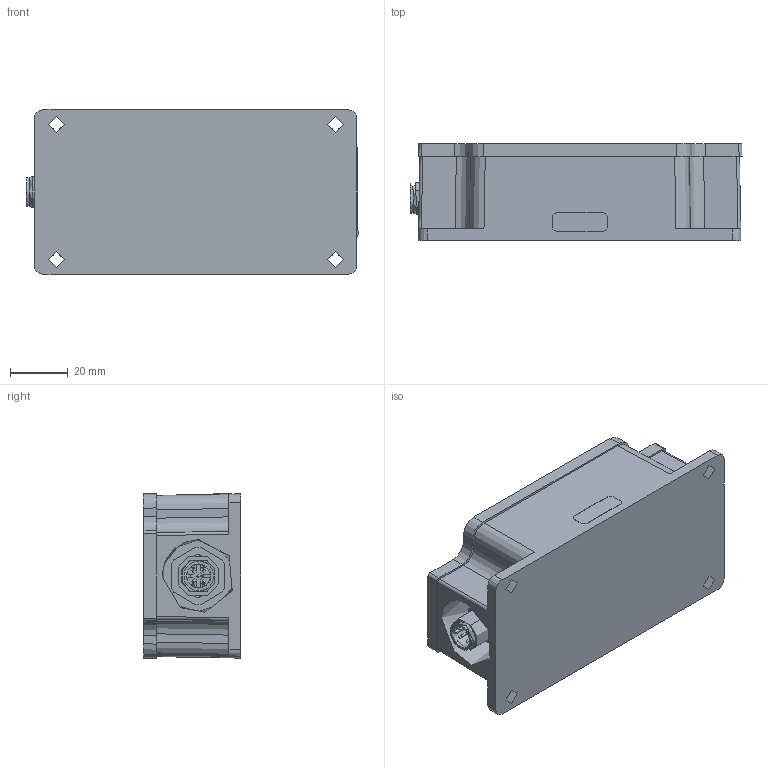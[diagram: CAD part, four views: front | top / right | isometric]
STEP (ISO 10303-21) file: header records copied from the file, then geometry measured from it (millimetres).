
FILE_DESCRIPTION(/* description */ (''),/* implementation_level */ '2;1');
FILE_NAME(/* name */ 'S:\Projects\3DA-3DG-INC-CAN, AX060900, Proj_16016\UNIT ASSEMBLY\RELEASED\A\AX060900.stp',/* time_stamp */ '2026-08-31T12:18:41-04:00',/* author */ ('AutoDeskUser'),/* organization */ (''),/* preprocessor_version */ 'ST-DEVELOPER v18.1',/* originating_system */ 'Autodesk Inventor 2021',/* authorisation */ '');
FILE_SCHEMA (('CONFIG_CONTROL_DESIGN'));
Products named in the file (1): AX060900
Bounding box: 114.81 x 33.58 x 57.09 mm (x, y, z)
Volume: 168131 mm3; surface area: 69344.4 mm2
Topology: 16 solids, 16 shells, 3161 faces, 8353 edges, 5519 vertices
Faces by surface type: plane 1841, bspline 958, cylinder 256, cone 69, torus 30, sphere 7
Full cylindrical faces by diameter (mm): 1 x15, 1.1 x5, 1.2 x10, 1.524 x10, 3.251 x8, 4 x4, 8 x4, 8.2 x1, 8.3 x1, 10.2 x1, 10.5 x1, 10.917 x1, 11 x2, 12.192 x2, 12.2 x1, 13.8 x1, 15.1 x2
Entity records: 120549 total; most frequent: CARTESIAN_POINT 44980, ORIENTED_EDGE 16676, DIRECTION 11600, EDGE_CURVE 8338, LINE 5570, VECTOR 5570, VERTEX_POINT 5519, EDGE_LOOP 3519
